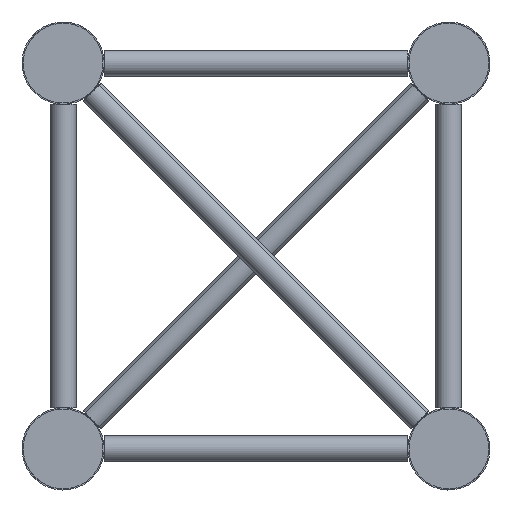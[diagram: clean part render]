
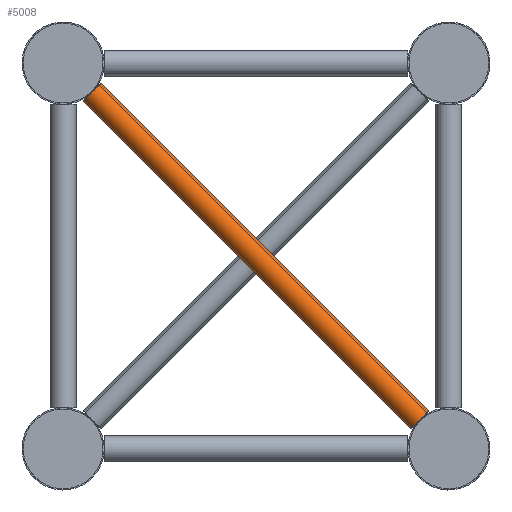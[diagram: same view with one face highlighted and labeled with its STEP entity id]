
A CAD part, left-side view. The second image highlights one B-rep face of the part: STEP entity #5008.
In plain terms, the highlighted cylindrical face has radius 8 mm (diameter 16 mm), a full revolution.
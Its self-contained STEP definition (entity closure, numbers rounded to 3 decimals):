
#567=B_SPLINE_CURVE_WITH_KNOTS('',3,(#8212,#8213,#8214,#8215,#8216,#8217),
 .UNSPECIFIED.,.F.,.F.,(4,2,4),(1.187,1.214,1.242),
 .UNSPECIFIED.);
#569=B_SPLINE_CURVE_WITH_KNOTS('',3,(#8230,#8231,#8232,#8233,#8234,#8235),
 .UNSPECIFIED.,.F.,.F.,(4,2,4),(3.616,3.643,3.67),
 .UNSPECIFIED.);
#572=B_SPLINE_CURVE_WITH_KNOTS('',3,(#8265,#8266,#8267,#8268,#8269,#8270),
 .UNSPECIFIED.,.F.,.F.,(4,2,4),(3.616,3.643,3.67),
 .UNSPECIFIED.);
#573=B_SPLINE_CURVE_WITH_KNOTS('',3,(#8274,#8275,#8276,#8277,#8278,#8279),
 .UNSPECIFIED.,.F.,.F.,(4,2,4),(1.187,1.214,1.242),
 .UNSPECIFIED.);
#614=CYLINDRICAL_SURFACE('',#5483,8.);
#817=FACE_BOUND('',#1547,.T.);
#1043=FACE_OUTER_BOUND('',#1546,.T.);
#1546=EDGE_LOOP('',(#3387,#3388,#3389,#3390));
#1547=EDGE_LOOP('',(#3391,#3392,#3393,#3394));
#2019=CIRCLE('',#5484,8.);
#2020=CIRCLE('',#5485,8.);
#2021=CIRCLE('',#5486,8.);
#2022=CIRCLE('',#5487,8.);
#2308=VERTEX_POINT('',#8209);
#2309=VERTEX_POINT('',#8211);
#2312=VERTEX_POINT('',#8227);
#2313=VERTEX_POINT('',#8229);
#2318=VERTEX_POINT('',#8263);
#2319=VERTEX_POINT('',#8264);
#2320=VERTEX_POINT('',#8271);
#2321=VERTEX_POINT('',#8273);
#2652=EDGE_CURVE('',#2309,#2308,#567,.T.);
#2656=EDGE_CURVE('',#2313,#2312,#569,.T.);
#2665=EDGE_CURVE('',#2308,#2313,#2019,.T.);
#2666=EDGE_CURVE('',#2312,#2309,#2020,.T.);
#2667=EDGE_CURVE('',#2318,#2319,#572,.T.);
#2668=EDGE_CURVE('',#2319,#2320,#2021,.T.);
#2669=EDGE_CURVE('',#2320,#2321,#573,.T.);
#2670=EDGE_CURVE('',#2321,#2318,#2022,.T.);
#3387=ORIENTED_EDGE('',*,*,#2652,.T.);
#3388=ORIENTED_EDGE('',*,*,#2665,.T.);
#3389=ORIENTED_EDGE('',*,*,#2656,.T.);
#3390=ORIENTED_EDGE('',*,*,#2666,.T.);
#3391=ORIENTED_EDGE('',*,*,#2667,.T.);
#3392=ORIENTED_EDGE('',*,*,#2668,.T.);
#3393=ORIENTED_EDGE('',*,*,#2669,.T.);
#3394=ORIENTED_EDGE('',*,*,#2670,.T.);
#5008=ADVANCED_FACE('',(#1043,#817),#614,.T.);
#5483=AXIS2_PLACEMENT_3D('',#8260,#6467,#6468);
#5484=AXIS2_PLACEMENT_3D('',#8261,#6469,#6470);
#5485=AXIS2_PLACEMENT_3D('',#8262,#6471,#6472);
#5486=AXIS2_PLACEMENT_3D('',#8272,#6473,#6474);
#5487=AXIS2_PLACEMENT_3D('',#8280,#6475,#6476);
#6467=DIRECTION('center_axis',(0.,0.707,
0.707));
#6468=DIRECTION('ref_axis',(0.,0.707,-0.707));
#6469=DIRECTION('center_axis',(0.,0.707,
0.707));
#6470=DIRECTION('ref_axis',(0.,0.707,-0.707));
#6471=DIRECTION('center_axis',(0.,0.707,
0.707));
#6472=DIRECTION('ref_axis',(0.,0.707,-0.707));
#6473=DIRECTION('center_axis',(0.,-0.707,
-0.707));
#6474=DIRECTION('ref_axis',(0.,0.707,-0.707));
#6475=DIRECTION('center_axis',(0.,-0.707,
-0.707));
#6476=DIRECTION('ref_axis',(0.,0.707,-0.707));
#8209=CARTESIAN_POINT('',(52.005,17.836,-220.776));
#8211=CARTESIAN_POINT('',(52.005,18.224,-221.164));
#8212=CARTESIAN_POINT('Ctrl Pts',(52.005,18.224,-221.164));
#8213=CARTESIAN_POINT('Ctrl Pts',(52.002,18.16,-221.098));
#8214=CARTESIAN_POINT('Ctrl Pts',(52.,18.096,-221.033));
#8215=CARTESIAN_POINT('Ctrl Pts',(52.,17.967,-220.904));
#8216=CARTESIAN_POINT('Ctrl Pts',(52.002,17.902,-220.84));
#8217=CARTESIAN_POINT('Ctrl Pts',(52.005,17.836,-220.776));
#8227=CARTESIAN_POINT('',(67.995,18.224,-221.164));
#8229=CARTESIAN_POINT('',(67.995,17.836,-220.776));
#8230=CARTESIAN_POINT('Ctrl Pts',(67.995,17.836,-220.776));
#8231=CARTESIAN_POINT('Ctrl Pts',(67.998,17.902,-220.84));
#8232=CARTESIAN_POINT('Ctrl Pts',(68.,17.967,-220.904));
#8233=CARTESIAN_POINT('Ctrl Pts',(68.,18.096,-221.033));
#8234=CARTESIAN_POINT('Ctrl Pts',(67.998,18.16,-221.098));
#8235=CARTESIAN_POINT('Ctrl Pts',(67.995,18.224,-221.164));
#8260=CARTESIAN_POINT('Origin',(60.,119.5,-119.5));
#8261=CARTESIAN_POINT('Origin',(60.,18.03,-220.97));
#8262=CARTESIAN_POINT('Origin',(60.,18.03,-220.97));
#8263=CARTESIAN_POINT('',(52.005,220.776,-17.836));
#8264=CARTESIAN_POINT('',(52.005,221.164,-18.224));
#8265=CARTESIAN_POINT('Ctrl Pts',(52.005,220.776,-17.836));
#8266=CARTESIAN_POINT('Ctrl Pts',(52.002,220.84,-17.902));
#8267=CARTESIAN_POINT('Ctrl Pts',(52.,220.904,-17.967));
#8268=CARTESIAN_POINT('Ctrl Pts',(52.,221.033,-18.096));
#8269=CARTESIAN_POINT('Ctrl Pts',(52.002,221.098,-18.16));
#8270=CARTESIAN_POINT('Ctrl Pts',(52.005,221.164,-18.224));
#8271=CARTESIAN_POINT('',(67.995,221.164,-18.224));
#8272=CARTESIAN_POINT('Origin',(60.,220.97,-18.03));
#8273=CARTESIAN_POINT('',(67.995,220.776,-17.836));
#8274=CARTESIAN_POINT('Ctrl Pts',(67.995,221.164,-18.224));
#8275=CARTESIAN_POINT('Ctrl Pts',(67.998,221.098,-18.16));
#8276=CARTESIAN_POINT('Ctrl Pts',(68.,221.033,-18.096));
#8277=CARTESIAN_POINT('Ctrl Pts',(68.,220.904,-17.967));
#8278=CARTESIAN_POINT('Ctrl Pts',(67.998,220.84,-17.902));
#8279=CARTESIAN_POINT('Ctrl Pts',(67.995,220.776,-17.836));
#8280=CARTESIAN_POINT('Origin',(60.,220.97,-18.03));
